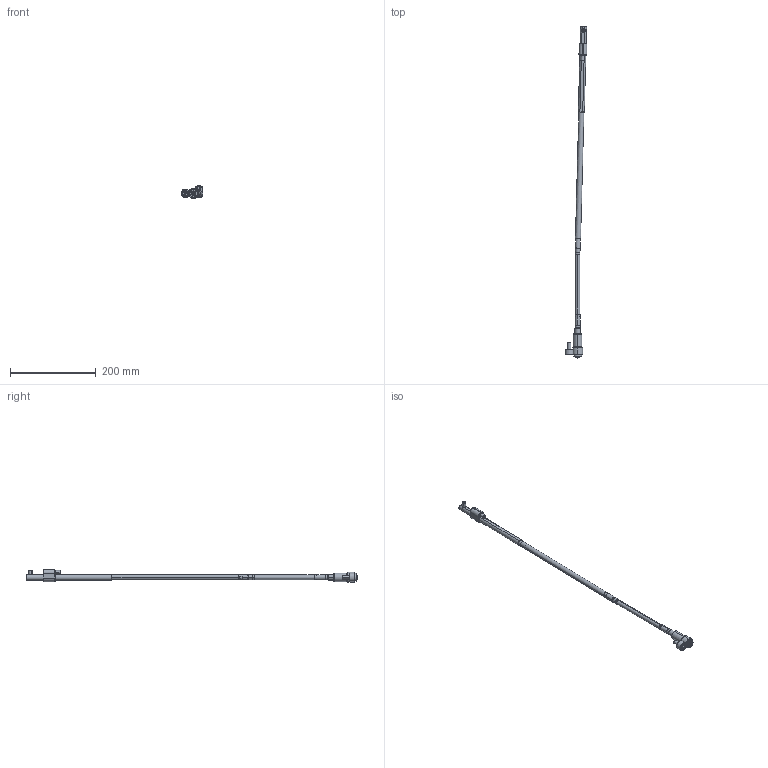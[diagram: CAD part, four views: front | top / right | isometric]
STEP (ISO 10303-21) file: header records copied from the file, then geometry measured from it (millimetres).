
FILE_DESCRIPTION (( 'STEP AP214' ), '1' );
FILE_NAME ('WL120125-INJ 1,5°.STEP', '2021-03-19T15:39:16', ( '' ), ( '' ), 'SwSTEP 2.0', 'SolidWorks 2019', '' );
FILE_SCHEMA (( 'AUTOMOTIVE_DESIGN' ));
Length unit declared in the file: millimetre
Products named in the file (17): 1DIN912820_DIN 912 M8 x 20 --- 20C; WL120125-INJ 1,5°; Web-WL12-A3; 1DIN912645_DIN 912 M6 x 45 --- 45C; WL120100-D; 3IMAN5X3-150_con sellador; WL120100-B1; Web-WL12-A1; 9DR2808-TOR; WL120100-B; Web-WL12-A8; WL120100-E; Web-WL12-A2; Web-WL12-F00.SLDPRT; 8WL12EJEP; Web-WL12-F01; Web-WL12-XX_OFF-WL120125-1,5
Assembly tree (16 placements, depth 3):
  WL120125-INJ 1,5°
    Web-WL12-A8
    Web-WL12-XX_OFF-WL120125-1,5
    Web-WL12-A3
    Web-WL12-A2
    Web-WL12-A1
    Web-WL12-F00.SLDPRT
      Web-WL12-F01
      1DIN912820_DIN 912 M8 x 20 --- 20C
      1DIN912645_DIN 912 M6 x 45 --- 45C
    WL120100-D
    8WL12EJEP
    WL120100-E
    9DR2808-TOR
    WL120100-B
      WL120100-B1
      3IMAN5X3-150_con sellador
Bounding box: 51.19 x 773 x 29.9 mm (x, y, z)
Volume: 116548.5 mm3; surface area: 51030 mm2
Topology: 15 solids, 15 shells, 432 faces, 906 edges, 525 vertices
Faces by surface type: plane 139, cylinder 123, cone 120, torus 50
Entity records: 13661 total; most frequent: DIRECTION 2240, CARTESIAN_POINT 2104, ORIENTED_EDGE 1788, AXIS2_PLACEMENT_3D 929, EDGE_CURVE 894, VERTEX_POINT 525, EDGE_LOOP 477, CIRCLE 476
